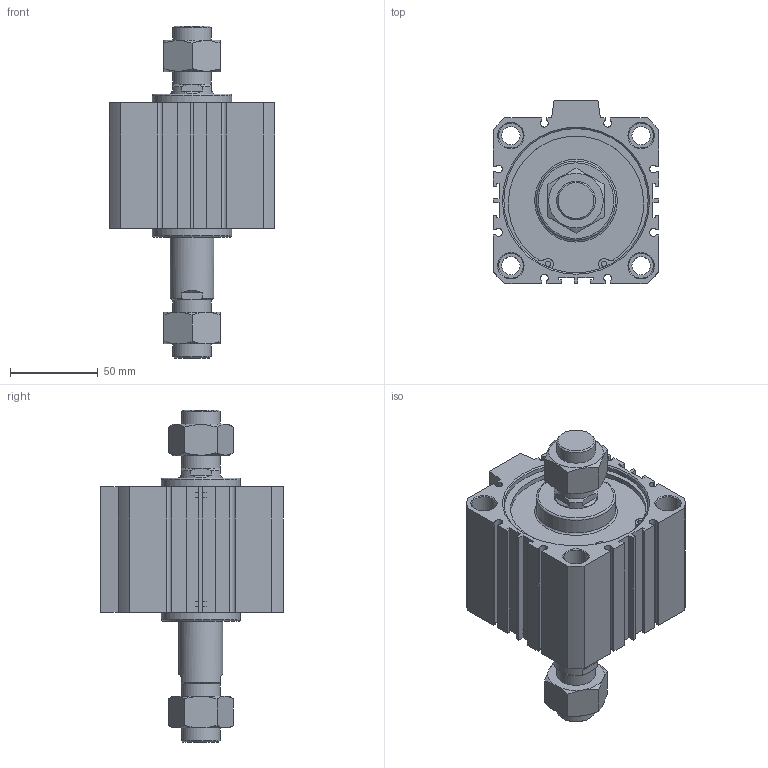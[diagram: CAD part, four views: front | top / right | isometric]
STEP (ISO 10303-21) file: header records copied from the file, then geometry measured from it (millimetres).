
FILE_DESCRIPTION((''),'2;1');
FILE_NAME('I:\3D電子目錄\氣缸\JDD\JDD-B\JDD80-B\JDD80x30-B.stp','2007-02-13T16:48:33',('662F206'),(''),'Autodesk Inventor 10','Autodesk Inventor 10','');
FILE_SCHEMA(('AUTOMOTIVE_DESIGN { 1 0 10303 214 1 1 1 1 }'));
Length unit declared in the file: millimetre
Products named in the file (3): JDD80-B; R 形環 82
Assembly tree (3 placements, depth 2):
  JDD80-B
    JDD80-B
    R 形環 82  x2
Bounding box: 94 x 104 x 188.7 mm (x, y, z)
Volume: 627513.9 mm3; surface area: 91325 mm2
Topology: 3 solids, 3 shells, 226 faces, 548 edges, 354 vertices
Faces by surface type: plane 130, cylinder 56, cone 36, bspline 2, torus 2
Full cylindrical faces by diameter (mm): 3.1 x4, 3.5 x2, 10.4 x4, 14 x8, 22 x4, 25 x2, 45 x2, 82 x4, 85.5 x2
Entity records: 6033 total; most frequent: CARTESIAN_POINT 1188, DIRECTION 994, ORIENTED_EDGE 916, EDGE_CURVE 458, AXIS2_PLACEMENT_3D 366, VERTEX_POINT 326, EDGE_LOOP 304, VECTOR 262
